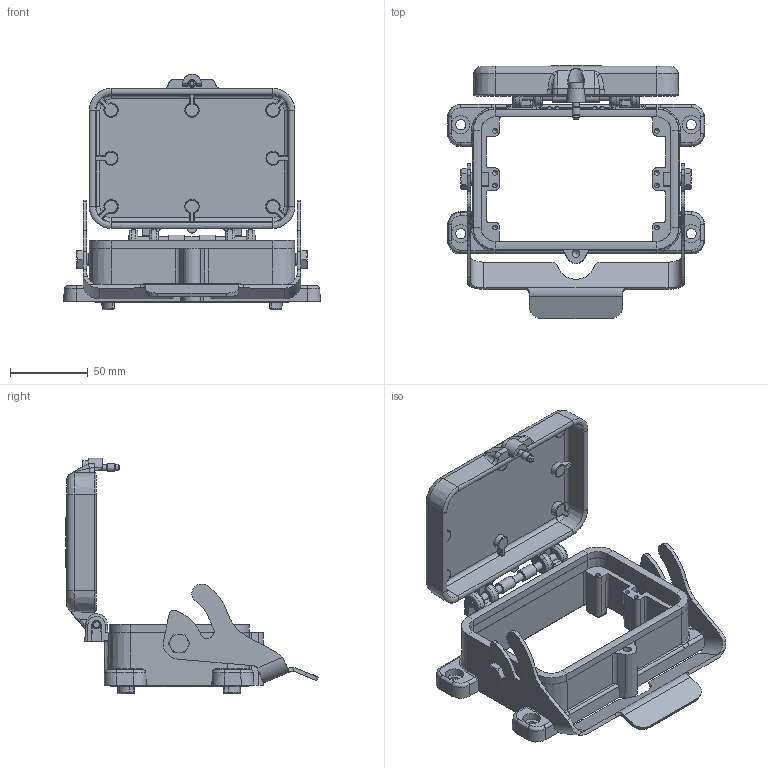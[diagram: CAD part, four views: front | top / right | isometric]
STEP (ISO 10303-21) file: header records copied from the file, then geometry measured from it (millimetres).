
FILE_DESCRIPTION(/* description */ (''),/* implementation_level */ '2;1');
FILE_NAME(/* name */ '100095151ugm000_f.stp',/* time_stamp */ '2022-03-11T10:07:55+01:00',/* author */ (''),/* organization */ (''),/* preprocessor_version */ 'ST-DEVELOPER v16.7',/* originating_system */ 'SIEMENS PLM Software NX 1911',/* authorisation */ '');
FILE_SCHEMA (('AUTOMOTIVE_DESIGN { 1 0 10303 214 3 1 1 1 }'));
Length unit declared in the file: millimetre
Products named in the file (1): 100095151ugm000_f
Bounding box: 165 x 162.44 x 151.25 mm (x, y, z)
Volume: 230983.8 mm3; surface area: 112694.2 mm2
Topology: 3 solids, 4 shells, 893 faces, 2288 edges, 1416 vertices
Faces by surface type: plane 377, cylinder 281, bspline 143, cone 57, torus 19, sphere 16
Full cylindrical faces by diameter (mm): 3 x8, 3.04 x1, 3.36 x1, 3.9 x1, 4.2 x1, 4.8 x2, 5 x7, 5.1 x2, 6.5 x4, 7.5 x2, 8 x2, 8.1 x2, 9 x1, 11.6 x4
Entity records: 33145 total; most frequent: CARTESIAN_POINT 9365, ORIENTED_EDGE 4364, DIRECTION 4126, EDGE_CURVE 2182, AXIS2_PLACEMENT_3D 1500, VERTEX_POINT 1398, LINE 1126, VECTOR 1126
